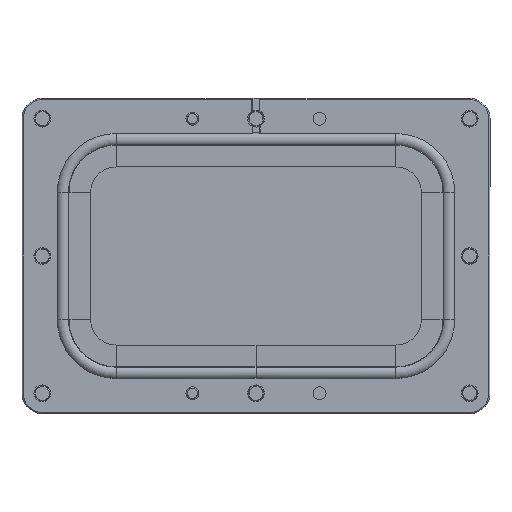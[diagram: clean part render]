
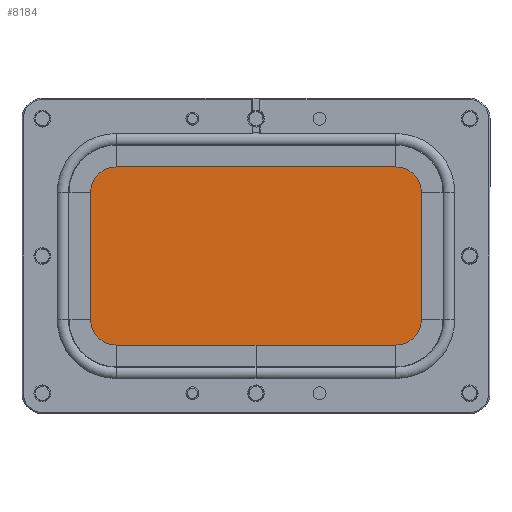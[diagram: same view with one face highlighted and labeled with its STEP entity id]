
A CAD part, front view. The second image highlights one B-rep face of the part: STEP entity #8184.
In plain terms, the highlighted planar face has unit normal (0, -1, 0).
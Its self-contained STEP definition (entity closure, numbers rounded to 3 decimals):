
#93 = EDGE_LOOP ( 'NONE', ( #4871, #12057, #7861, #12256, #2727, #5106, #6307, #8642 ) ) ;
#506 = FACE_OUTER_BOUND ( 'NONE', #93, .T. ) ;
#560 = DIRECTION ( 'NONE',  ( 0., -1., 0. ) ) ;
#622 = DIRECTION ( 'NONE',  ( 0., 0., 1. ) ) ;
#747 = CARTESIAN_POINT ( 'NONE',  ( 55., 0., 25. ) ) ;
#975 = AXIS2_PLACEMENT_3D ( 'NONE', #7875, #2194, #10776 ) ;
#1056 = EDGE_CURVE ( 'NONE', #4794, #1836, #11656, .T. ) ;
#1302 = VERTEX_POINT ( 'NONE', #6586 ) ;
#1512 = CARTESIAN_POINT ( 'NONE',  ( -55., 0., 25. ) ) ;
#1528 = DIRECTION ( 'NONE',  ( 0., 0., 1. ) ) ;
#1836 = VERTEX_POINT ( 'NONE', #7717 ) ;
#2181 = AXIS2_PLACEMENT_3D ( 'NONE', #9621, #11346, #5615 ) ;
#2194 = DIRECTION ( 'NONE',  ( 0., -1., 0. ) ) ;
#2719 = CARTESIAN_POINT ( 'NONE',  ( 77.2, 0., -25. ) ) ;
#2727 = ORIENTED_EDGE ( 'NONE', *, *, #4574, .T. ) ;
#2813 = PLANE ( 'NONE',  #6075 ) ;
#2861 = EDGE_CURVE ( 'NONE', #5184, #1302, #10005, .T. ) ;
#3379 = VERTEX_POINT ( 'NONE', #11013 ) ;
#3733 = LINE ( 'NONE', #12261, #6686 ) ;
#3900 = VECTOR ( 'NONE', #4273, 1000. ) ;
#4143 = CARTESIAN_POINT ( 'NONE',  ( -55., 0., 47.2 ) ) ;
#4273 = DIRECTION ( 'NONE',  ( -1., 0., 0. ) ) ;
#4409 = VERTEX_POINT ( 'NONE', #9948 ) ;
#4574 = EDGE_CURVE ( 'NONE', #1836, #3379, #9403, .T. ) ;
#4794 = VERTEX_POINT ( 'NONE', #2719 ) ;
#4871 = ORIENTED_EDGE ( 'NONE', *, *, #7016, .T. ) ;
#5106 = ORIENTED_EDGE ( 'NONE', *, *, #6564, .T. ) ;
#5184 = VERTEX_POINT ( 'NONE', #12049 ) ;
#5215 = AXIS2_PLACEMENT_3D ( 'NONE', #1512, #560, #7182 ) ;
#5354 = LINE ( 'NONE', #12226, #9974 ) ;
#5615 = DIRECTION ( 'NONE',  ( 0., 0., 1. ) ) ;
#5949 = VERTEX_POINT ( 'NONE', #10656 ) ;
#5994 = EDGE_CURVE ( 'NONE', #4409, #4794, #7103, .T. ) ;
#6075 = AXIS2_PLACEMENT_3D ( 'NONE', #10437, #11322, #11376 ) ;
#6307 = ORIENTED_EDGE ( 'NONE', *, *, #2861, .T. ) ;
#6413 = DIRECTION ( 'NONE',  ( 0., 0., -1. ) ) ;
#6420 = LINE ( 'NONE', #4143, #3900 ) ;
#6564 = EDGE_CURVE ( 'NONE', #3379, #5184, #6420, .T. ) ;
#6586 = CARTESIAN_POINT ( 'NONE',  ( -77.2, 0., 25. ) ) ;
#6686 = VECTOR ( 'NONE', #11125, 1000. ) ;
#6719 = CARTESIAN_POINT ( 'NONE',  ( -55., 0., -47.2 ) ) ;
#7016 = EDGE_CURVE ( 'NONE', #5949, #8373, #11798, .T. ) ;
#7103 = CIRCLE ( 'NONE', #975, 22.2 ) ;
#7182 = DIRECTION ( 'NONE',  ( 0., 0., 1. ) ) ;
#7717 = CARTESIAN_POINT ( 'NONE',  ( 77.2, 0., 25. ) ) ;
#7861 = ORIENTED_EDGE ( 'NONE', *, *, #5994, .T. ) ;
#7875 = CARTESIAN_POINT ( 'NONE',  ( 55., 0., -25. ) ) ;
#8100 = CARTESIAN_POINT ( 'NONE',  ( 77.2, 0., 25. ) ) ;
#8184 = ADVANCED_FACE ( 'NONE', ( #506 ), #2813, .F. ) ;
#8373 = VERTEX_POINT ( 'NONE', #6719 ) ;
#8642 = ORIENTED_EDGE ( 'NONE', *, *, #11554, .T. ) ;
#9109 = VECTOR ( 'NONE', #1528, 1000. ) ;
#9403 = CIRCLE ( 'NONE', #9632, 22.2 ) ;
#9621 = CARTESIAN_POINT ( 'NONE',  ( -55., 0., -25. ) ) ;
#9632 = AXIS2_PLACEMENT_3D ( 'NONE', #747, #12066, #622 ) ;
#9948 = CARTESIAN_POINT ( 'NONE',  ( 55., 0., -47.2 ) ) ;
#9974 = VECTOR ( 'NONE', #6413, 1000. ) ;
#10005 = CIRCLE ( 'NONE', #5215, 22.2 ) ;
#10437 = CARTESIAN_POINT ( 'NONE',  ( -55., 0., 25. ) ) ;
#10656 = CARTESIAN_POINT ( 'NONE',  ( -77.2, 0., -25. ) ) ;
#10776 = DIRECTION ( 'NONE',  ( 0., 0., 1. ) ) ;
#11013 = CARTESIAN_POINT ( 'NONE',  ( 55., 0., 47.2 ) ) ;
#11125 = DIRECTION ( 'NONE',  ( 1., 0., 0. ) ) ;
#11322 = DIRECTION ( 'NONE',  ( 0., 1., 0. ) ) ;
#11346 = DIRECTION ( 'NONE',  ( 0., -1., 0. ) ) ;
#11376 = DIRECTION ( 'NONE',  ( 0., 0., 1. ) ) ;
#11554 = EDGE_CURVE ( 'NONE', #1302, #5949, #5354, .T. ) ;
#11656 = LINE ( 'NONE', #8100, #9109 ) ;
#11731 = EDGE_CURVE ( 'NONE', #8373, #4409, #3733, .T. ) ;
#11798 = CIRCLE ( 'NONE', #2181, 22.2 ) ;
#12049 = CARTESIAN_POINT ( 'NONE',  ( -55., 0., 47.2 ) ) ;
#12057 = ORIENTED_EDGE ( 'NONE', *, *, #11731, .T. ) ;
#12066 = DIRECTION ( 'NONE',  ( 0., -1., 0. ) ) ;
#12226 = CARTESIAN_POINT ( 'NONE',  ( -77.2, 0., 25. ) ) ;
#12256 = ORIENTED_EDGE ( 'NONE', *, *, #1056, .T. ) ;
#12261 = CARTESIAN_POINT ( 'NONE',  ( -55., 0., -47.2 ) ) ;
